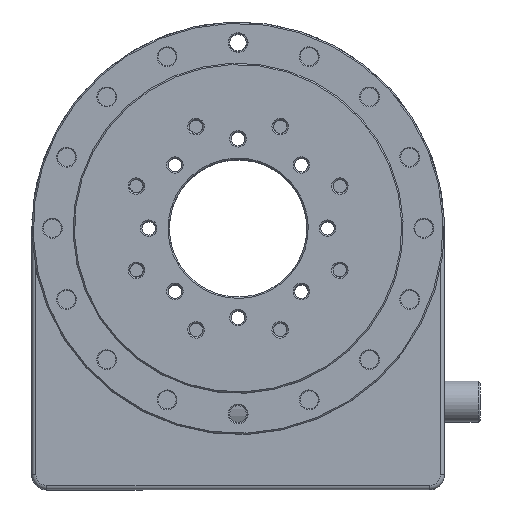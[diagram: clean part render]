
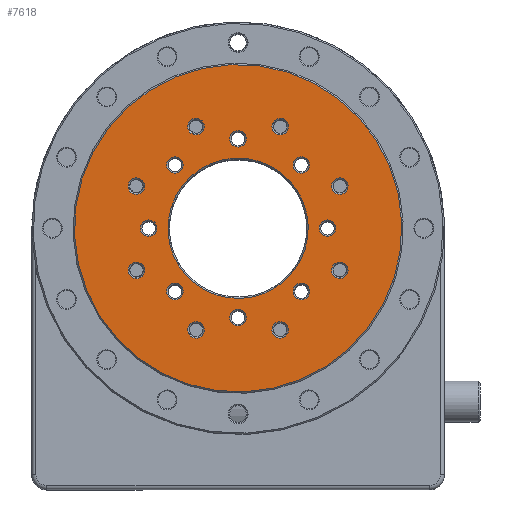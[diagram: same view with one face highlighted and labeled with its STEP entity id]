
A CAD part, top view. The second image highlights one B-rep face of the part: STEP entity #7618.
In plain terms, the highlighted planar face has unit normal (0, 0, 1) as drawn and (0, 0, -1) by its records, which use the part's own axes.
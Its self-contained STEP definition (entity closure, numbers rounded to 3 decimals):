
#6076=CARTESIAN_POINT('',(-25.5,0.,-16.5));
#6077=VERTEX_POINT('',#6076);
#6078=CARTESIAN_POINT('',(0.0,0.0,-16.5));
#6079=DIRECTION('',(0.0,0.0,-1.0));
#6080=DIRECTION('',(1.0,0.0,0.0));
#6081=AXIS2_PLACEMENT_3D('',#6078,#6079,#6080);
#6082=CIRCLE('',#6081,25.5);
#6083=EDGE_CURVE('',#6077,#6077,#6082,.T.);
#6104=CARTESIAN_POINT('',(-59.5,0.,-16.5));
#6105=VERTEX_POINT('',#6104);
#6106=CARTESIAN_POINT('',(0.0,0.0,-16.5));
#6107=DIRECTION('',(0.0,0.0,-1.0));
#6108=DIRECTION('',(1.0,0.0,0.0));
#6109=AXIS2_PLACEMENT_3D('',#6106,#6107,#6108);
#6110=CIRCLE('',#6109,59.5);
#6111=EDGE_CURVE('',#6105,#6105,#6110,.T.);
#6320=CARTESIAN_POINT('',(3.0,40.0,-16.5));
#6321=VERTEX_POINT('',#6320);
#6322=CARTESIAN_POINT('',(0.0,40.0,-16.5));
#6323=DIRECTION('',(0.0,0.0,1.0));
#6324=DIRECTION('',(1.0,0.0,0.0));
#6325=AXIS2_PLACEMENT_3D('',#6322,#6323,#6324);
#6326=CIRCLE('',#6325,3.0);
#6327=EDGE_CURVE('',#6321,#6321,#6326,.T.);
#6388=CARTESIAN_POINT('',(-26.163,30.406,-16.5));
#6389=VERTEX_POINT('',#6388);
#6390=CARTESIAN_POINT('',(-28.284,28.284,-16.5));
#6391=DIRECTION('',(0.0,0.0,1.0));
#6392=DIRECTION('',(0.707,0.707,0.0));
#6393=AXIS2_PLACEMENT_3D('',#6390,#6391,#6392);
#6394=CIRCLE('',#6393,3.0);
#6395=EDGE_CURVE('',#6389,#6389,#6394,.T.);
#6456=CARTESIAN_POINT('',(-40.0,3.0,-16.5));
#6457=VERTEX_POINT('',#6456);
#6458=CARTESIAN_POINT('',(-40.0,0.0,-16.5));
#6459=DIRECTION('',(0.0,0.0,1.0));
#6460=DIRECTION('',(0.0,1.0,0.0));
#6461=AXIS2_PLACEMENT_3D('',#6458,#6459,#6460);
#6462=CIRCLE('',#6461,3.0);
#6463=EDGE_CURVE('',#6457,#6457,#6462,.T.);
#6524=CARTESIAN_POINT('',(-30.406,-26.163,-16.5));
#6525=VERTEX_POINT('',#6524);
#6526=CARTESIAN_POINT('',(-28.284,-28.284,-16.5));
#6527=DIRECTION('',(0.0,0.0,1.0));
#6528=DIRECTION('',(-0.707,0.707,0.0));
#6529=AXIS2_PLACEMENT_3D('',#6526,#6527,#6528);
#6530=CIRCLE('',#6529,3.0);
#6531=EDGE_CURVE('',#6525,#6525,#6530,.T.);
#6592=CARTESIAN_POINT('',(-3.0,-40.0,-16.5));
#6593=VERTEX_POINT('',#6592);
#6594=CARTESIAN_POINT('',(0.0,-40.0,-16.5));
#6595=DIRECTION('',(0.0,0.0,1.0));
#6596=DIRECTION('',(-1.0,0.0,0.0));
#6597=AXIS2_PLACEMENT_3D('',#6594,#6595,#6596);
#6598=CIRCLE('',#6597,3.0);
#6599=EDGE_CURVE('',#6593,#6593,#6598,.T.);
#6660=CARTESIAN_POINT('',(26.163,-30.406,-16.5));
#6661=VERTEX_POINT('',#6660);
#6662=CARTESIAN_POINT('',(28.284,-28.284,-16.5));
#6663=DIRECTION('',(0.0,0.0,1.0));
#6664=DIRECTION('',(-0.707,-0.707,0.0));
#6665=AXIS2_PLACEMENT_3D('',#6662,#6663,#6664);
#6666=CIRCLE('',#6665,3.0);
#6667=EDGE_CURVE('',#6661,#6661,#6666,.T.);
#6728=CARTESIAN_POINT('',(40.0,-3.0,-16.5));
#6729=VERTEX_POINT('',#6728);
#6730=CARTESIAN_POINT('',(40.0,0.0,-16.5));
#6731=DIRECTION('',(0.0,0.0,1.0));
#6732=DIRECTION('',(0.0,-1.0,0.0));
#6733=AXIS2_PLACEMENT_3D('',#6730,#6731,#6732);
#6734=CIRCLE('',#6733,3.0);
#6735=EDGE_CURVE('',#6729,#6729,#6734,.T.);
#6796=CARTESIAN_POINT('',(30.406,26.163,-16.5));
#6797=VERTEX_POINT('',#6796);
#6798=CARTESIAN_POINT('',(28.284,28.284,-16.5));
#6799=DIRECTION('',(0.0,0.0,1.0));
#6800=DIRECTION('',(0.707,-0.707,0.0));
#6801=AXIS2_PLACEMENT_3D('',#6798,#6799,#6800);
#6802=CIRCLE('',#6801,3.0);
#6803=EDGE_CURVE('',#6797,#6797,#6802,.T.);
#6864=CARTESIAN_POINT('',(-9.666,31.174,-16.5));
#6865=VERTEX_POINT('',#6864);
#6866=CARTESIAN_POINT('',(-12.437,30.026,-16.5));
#6867=DIRECTION('',(0.0,0.0,1.0));
#6868=DIRECTION('',(0.924,0.383,0.0));
#6869=AXIS2_PLACEMENT_3D('',#6866,#6867,#6868);
#6870=CIRCLE('',#6869,3.0);
#6871=EDGE_CURVE('',#6865,#6865,#6870,.T.);
#6932=CARTESIAN_POINT('',(-28.878,15.209,-16.5));
#6933=VERTEX_POINT('',#6932);
#6934=CARTESIAN_POINT('',(-30.026,12.437,-16.5));
#6935=DIRECTION('',(0.0,0.0,1.0));
#6936=DIRECTION('',(0.383,0.924,0.0));
#6937=AXIS2_PLACEMENT_3D('',#6934,#6935,#6936);
#6938=CIRCLE('',#6937,3.0);
#6939=EDGE_CURVE('',#6933,#6933,#6938,.T.);
#7000=CARTESIAN_POINT('',(-31.174,-9.666,-16.5));
#7001=VERTEX_POINT('',#7000);
#7002=CARTESIAN_POINT('',(-30.026,-12.437,-16.5));
#7003=DIRECTION('',(0.0,0.0,1.0));
#7004=DIRECTION('',(-0.383,0.924,0.0));
#7005=AXIS2_PLACEMENT_3D('',#7002,#7003,#7004);
#7006=CIRCLE('',#7005,3.0);
#7007=EDGE_CURVE('',#7001,#7001,#7006,.T.);
#7068=CARTESIAN_POINT('',(-15.209,-28.878,-16.5));
#7069=VERTEX_POINT('',#7068);
#7070=CARTESIAN_POINT('',(-12.437,-30.026,-16.5));
#7071=DIRECTION('',(0.0,0.0,1.0));
#7072=DIRECTION('',(-0.924,0.383,0.0));
#7073=AXIS2_PLACEMENT_3D('',#7070,#7071,#7072);
#7074=CIRCLE('',#7073,3.0);
#7075=EDGE_CURVE('',#7069,#7069,#7074,.T.);
#7136=CARTESIAN_POINT('',(9.666,-31.174,-16.5));
#7137=VERTEX_POINT('',#7136);
#7138=CARTESIAN_POINT('',(12.437,-30.026,-16.5));
#7139=DIRECTION('',(0.0,0.0,1.0));
#7140=DIRECTION('',(-0.924,-0.383,0.0));
#7141=AXIS2_PLACEMENT_3D('',#7138,#7139,#7140);
#7142=CIRCLE('',#7141,3.0);
#7143=EDGE_CURVE('',#7137,#7137,#7142,.T.);
#7204=CARTESIAN_POINT('',(28.878,-15.209,-16.5));
#7205=VERTEX_POINT('',#7204);
#7206=CARTESIAN_POINT('',(30.026,-12.437,-16.5));
#7207=DIRECTION('',(0.0,0.0,1.0));
#7208=DIRECTION('',(-0.383,-0.924,0.0));
#7209=AXIS2_PLACEMENT_3D('',#7206,#7207,#7208);
#7210=CIRCLE('',#7209,3.0);
#7211=EDGE_CURVE('',#7205,#7205,#7210,.T.);
#7272=CARTESIAN_POINT('',(31.174,9.666,-16.5));
#7273=VERTEX_POINT('',#7272);
#7274=CARTESIAN_POINT('',(30.026,12.437,-16.5));
#7275=DIRECTION('',(0.0,0.0,1.0));
#7276=DIRECTION('',(0.383,-0.924,0.0));
#7277=AXIS2_PLACEMENT_3D('',#7274,#7275,#7276);
#7278=CIRCLE('',#7277,3.0);
#7279=EDGE_CURVE('',#7273,#7273,#7278,.T.);
#7340=CARTESIAN_POINT('',(15.209,28.878,-16.5));
#7341=VERTEX_POINT('',#7340);
#7342=CARTESIAN_POINT('',(12.437,30.026,-16.5));
#7343=DIRECTION('',(0.0,0.0,1.0));
#7344=DIRECTION('',(0.924,-0.383,0.0));
#7345=AXIS2_PLACEMENT_3D('',#7342,#7343,#7344);
#7346=CIRCLE('',#7345,3.0);
#7347=EDGE_CURVE('',#7341,#7341,#7346,.T.);
#7559=CARTESIAN_POINT('',(42.5,0.0,-16.5));
#7560=DIRECTION('',(0.0,0.0,-1.0));
#7561=DIRECTION('',(-1.0,0.0,0.0));
#7562=AXIS2_PLACEMENT_3D('',#7559,#7560,#7561);
#7563=PLANE('',#7562);
#7564=ORIENTED_EDGE('',*,*,#6111,.T.);
#7565=EDGE_LOOP('',(#7564));
#7566=FACE_OUTER_BOUND('',#7565,.T.);
#7567=ORIENTED_EDGE('',*,*,#7279,.T.);
#7568=EDGE_LOOP('',(#7567));
#7569=FACE_BOUND('',#7568,.T.);
#7570=ORIENTED_EDGE('',*,*,#7211,.T.);
#7571=EDGE_LOOP('',(#7570));
#7572=FACE_BOUND('',#7571,.T.);
#7573=ORIENTED_EDGE('',*,*,#7143,.T.);
#7574=EDGE_LOOP('',(#7573));
#7575=FACE_BOUND('',#7574,.T.);
#7576=ORIENTED_EDGE('',*,*,#7075,.T.);
#7577=EDGE_LOOP('',(#7576));
#7578=FACE_BOUND('',#7577,.T.);
#7579=ORIENTED_EDGE('',*,*,#7007,.T.);
#7580=EDGE_LOOP('',(#7579));
#7581=FACE_BOUND('',#7580,.T.);
#7582=ORIENTED_EDGE('',*,*,#6939,.T.);
#7583=EDGE_LOOP('',(#7582));
#7584=FACE_BOUND('',#7583,.T.);
#7585=ORIENTED_EDGE('',*,*,#6871,.T.);
#7586=EDGE_LOOP('',(#7585));
#7587=FACE_BOUND('',#7586,.T.);
#7588=ORIENTED_EDGE('',*,*,#6803,.T.);
#7589=EDGE_LOOP('',(#7588));
#7590=FACE_BOUND('',#7589,.T.);
#7591=ORIENTED_EDGE('',*,*,#6735,.T.);
#7592=EDGE_LOOP('',(#7591));
#7593=FACE_BOUND('',#7592,.T.);
#7594=ORIENTED_EDGE('',*,*,#6667,.T.);
#7595=EDGE_LOOP('',(#7594));
#7596=FACE_BOUND('',#7595,.T.);
#7597=ORIENTED_EDGE('',*,*,#6599,.T.);
#7598=EDGE_LOOP('',(#7597));
#7599=FACE_BOUND('',#7598,.T.);
#7600=ORIENTED_EDGE('',*,*,#6531,.T.);
#7601=EDGE_LOOP('',(#7600));
#7602=FACE_BOUND('',#7601,.T.);
#7603=ORIENTED_EDGE('',*,*,#6463,.T.);
#7604=EDGE_LOOP('',(#7603));
#7605=FACE_BOUND('',#7604,.T.);
#7606=ORIENTED_EDGE('',*,*,#6395,.T.);
#7607=EDGE_LOOP('',(#7606));
#7608=FACE_BOUND('',#7607,.T.);
#7609=ORIENTED_EDGE('',*,*,#6327,.T.);
#7610=EDGE_LOOP('',(#7609));
#7611=FACE_BOUND('',#7610,.T.);
#7612=ORIENTED_EDGE('',*,*,#6083,.F.);
#7613=EDGE_LOOP('',(#7612));
#7614=FACE_BOUND('',#7613,.T.);
#7615=ORIENTED_EDGE('',*,*,#7347,.T.);
#7616=EDGE_LOOP('',(#7615));
#7617=FACE_BOUND('',#7616,.T.);
#7618=ADVANCED_FACE('',(#7566,#7569,#7572,#7575,#7578,#7581,#7584,#7587,#7590,#7593,#7596,#7599,#7602,#7605,#7608,#7611,#7614,#7617),#7563,.T.);
